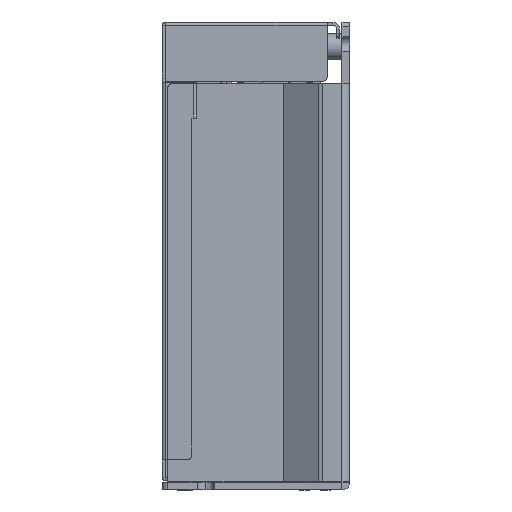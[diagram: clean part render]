
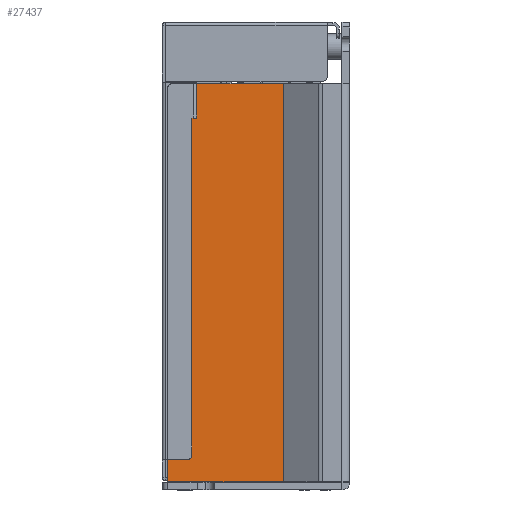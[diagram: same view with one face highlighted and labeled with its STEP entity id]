
A CAD part, left-side view. The second image highlights one B-rep face of the part: STEP entity #27437.
In plain terms, the highlighted planar face has unit normal (-1, 0, 0).
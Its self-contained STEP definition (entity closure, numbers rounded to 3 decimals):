
#5596 = VECTOR ( 'NONE', #46589, 1000. ) ;
#5624 = AXIS2_PLACEMENT_3D ( 'NONE', #46637, #46638, #46639 ) ;
#5642 = VECTOR ( 'NONE', #46631, 1000. ) ;
#5656 = VECTOR ( 'NONE', #46646, 1000. ) ;
#5659 = VECTOR ( 'NONE', #46649, 1000. ) ;
#21459 = CARTESIAN_POINT ( 'NONE',  ( -192.9, 13.476, -93.3 ) ) ;
#21460 = CARTESIAN_POINT ( 'NONE',  ( -192.9, 13.476, -12.5 ) ) ;
#21467 = CARTESIAN_POINT ( 'NONE',  ( -192.9, 37., -93.3 ) ) ;
#21468 = CARTESIAN_POINT ( 'NONE',  ( -192.9, 37., -13.5 ) ) ;
#21470 = CARTESIAN_POINT ( 'NONE',  ( -192.9, 36., -12.5 ) ) ;
#22082 = EDGE_CURVE ( 'NONE', #44744, #44745, #46587, .T. ) ;
#22096 = EDGE_CURVE ( 'NONE', #44752, #44753, #46629, .T. ) ;
#22099 = EDGE_CURVE ( 'NONE', #44753, #44755, #38486, .T. ) ;
#22101 = EDGE_CURVE ( 'NONE', #44744, #44752, #46644, .T. ) ;
#22102 = EDGE_CURVE ( 'NONE', #44755, #44745, #46647, .T. ) ;
#27437 = ADVANCED_FACE ( 'NONE', ( #59269 ), #59951, .T. ) ;
#38486 = CIRCLE ( 'NONE', #5624, 1. ) ;
#44063 = EDGE_LOOP ( 'NONE', ( #61231, #61234, #61233, #61235, #61236 ) ) ;
#44744 = VERTEX_POINT ( 'NONE', #21459 ) ;
#44745 = VERTEX_POINT ( 'NONE', #21460 ) ;
#44752 = VERTEX_POINT ( 'NONE', #21467 ) ;
#44753 = VERTEX_POINT ( 'NONE', #21468 ) ;
#44755 = VERTEX_POINT ( 'NONE', #21470 ) ;
#46587 = LINE ( 'NONE', #46588, #5596 ) ;
#46588 = CARTESIAN_POINT ( 'NONE',  ( -192.9, 13.476, -13.5 ) ) ;
#46589 = DIRECTION ( 'NONE',  ( 0., 0., 1. ) ) ;
#46629 = LINE ( 'NONE', #46630, #5642 ) ;
#46630 = CARTESIAN_POINT ( 'NONE',  ( -192.9, 37., -13.5 ) ) ;
#46631 = DIRECTION ( 'NONE',  ( 0., 0., 1. ) ) ;
#46637 = CARTESIAN_POINT ( 'NONE',  ( -192.9, 36., -13.5 ) ) ;
#46638 = DIRECTION ( 'NONE',  ( 1., 0., 0. ) ) ;
#46639 = DIRECTION ( 'NONE',  ( 0., -1., 0. ) ) ;
#46644 = LINE ( 'NONE', #46645, #5656 ) ;
#46645 = CARTESIAN_POINT ( 'NONE',  ( -192.9, 35.456, -93.3 ) ) ;
#46646 = DIRECTION ( 'NONE',  ( 0., 1., 0. ) ) ;
#46647 = LINE ( 'NONE', #46648, #5659 ) ;
#46648 = CARTESIAN_POINT ( 'NONE',  ( -192.9, 0.056, -12.5 ) ) ;
#46649 = DIRECTION ( 'NONE',  ( 0., -1., 0. ) ) ;
#59269 = FACE_OUTER_BOUND ( 'NONE', #44063, .T. ) ;
#59273 = AXIS2_PLACEMENT_3D ( 'NONE', #59952, #59953, #59954 ) ;
#59951 = PLANE ( 'NONE',  #59273 ) ;
#59952 = CARTESIAN_POINT ( 'NONE',  ( -192.9, 34.456, -13.5 ) ) ;
#59953 = DIRECTION ( 'NONE',  ( -1., 0., 0. ) ) ;
#59954 = DIRECTION ( 'NONE',  ( 0., -1., 0. ) ) ;
#61231 = ORIENTED_EDGE ( 'NONE', *, *, #22101, .F. ) ;
#61233 = ORIENTED_EDGE ( 'NONE', *, *, #22102, .F. ) ;
#61234 = ORIENTED_EDGE ( 'NONE', *, *, #22082, .T. ) ;
#61235 = ORIENTED_EDGE ( 'NONE', *, *, #22099, .F. ) ;
#61236 = ORIENTED_EDGE ( 'NONE', *, *, #22096, .F. ) ;
